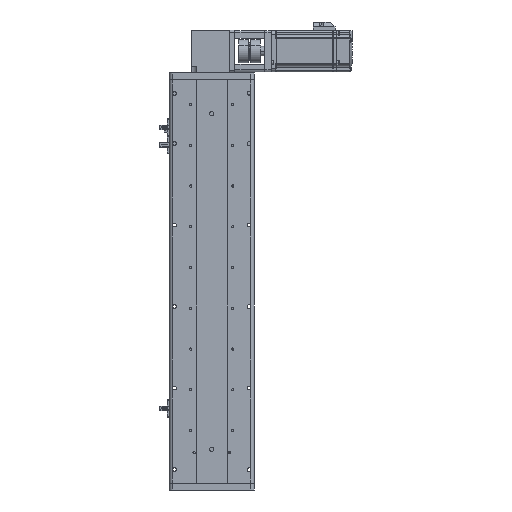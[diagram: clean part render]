
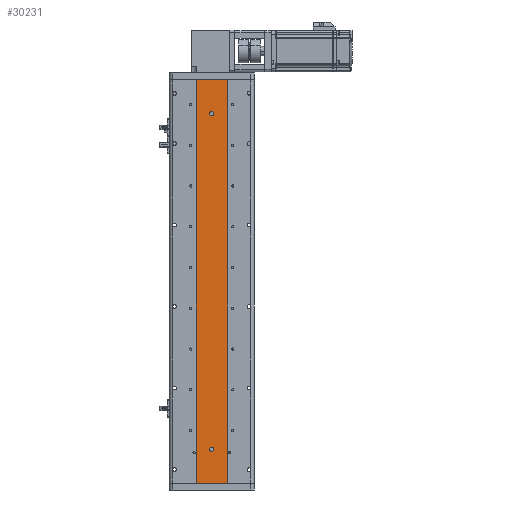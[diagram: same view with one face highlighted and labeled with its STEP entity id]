
A CAD part, front view. The second image highlights one B-rep face of the part: STEP entity #30231.
In plain terms, the highlighted planar face has unit normal (0, -1, 0).
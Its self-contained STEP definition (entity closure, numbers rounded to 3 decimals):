
#78 = CARTESIAN_POINT ( 'NONE',  ( -23., 1., -297. ) ) ;
#162 = CARTESIAN_POINT ( 'NONE',  ( 23., 1., -297. ) ) ;
#465 = EDGE_CURVE ( 'NONE', #45132, #41471, #11872, .T. ) ;
#1109 = DIRECTION ( 'NONE',  ( 0., 0., -1. ) ) ;
#1439 = DIRECTION ( 'NONE',  ( 0., 0., -1. ) ) ;
#1463 = CARTESIAN_POINT ( 'NONE',  ( 0., 1., -250. ) ) ;
#3496 = DIRECTION ( 'NONE',  ( 0., 0., -1. ) ) ;
#3683 = CIRCLE ( 'NONE', #52992, 3. ) ;
#3827 = EDGE_LOOP ( 'NONE', ( #29882, #59249 ) ) ;
#4054 = VERTEX_POINT ( 'NONE', #78 ) ;
#4213 = FACE_OUTER_BOUND ( 'NONE', #58045, .T. ) ;
#7995 = LINE ( 'NONE', #35588, #55363 ) ;
#8293 = AXIS2_PLACEMENT_3D ( 'NONE', #47663, #20074, #52233 ) ;
#10203 = CIRCLE ( 'NONE', #47657, 3. ) ;
#11188 = DIRECTION ( 'NONE',  ( 0., -1., 0. ) ) ;
#11460 = DIRECTION ( 'NONE',  ( 1., 0., 0. ) ) ;
#11872 = CIRCLE ( 'NONE', #8293, 3. ) ;
#12827 = VERTEX_POINT ( 'NONE', #26487 ) ;
#12847 = VERTEX_POINT ( 'NONE', #21913 ) ;
#14694 = CARTESIAN_POINT ( 'NONE',  ( -23., 1., 297.001 ) ) ;
#14889 = EDGE_CURVE ( 'NONE', #12827, #34340, #43730, .T. ) ;
#15589 = ORIENTED_EDGE ( 'NONE', *, *, #55574, .T. ) ;
#16768 = EDGE_CURVE ( 'NONE', #34340, #12827, #10203, .T. ) ;
#17221 = CARTESIAN_POINT ( 'NONE',  ( 23., 1., 297.001 ) ) ;
#18174 = DIRECTION ( 'NONE',  ( 0., -1., 0. ) ) ;
#18442 = AXIS2_PLACEMENT_3D ( 'NONE', #17221, #58532, #31031 ) ;
#20074 = DIRECTION ( 'NONE',  ( 0., -1., 0. ) ) ;
#21822 = EDGE_CURVE ( 'NONE', #53690, #4054, #39903, .T. ) ;
#21913 = CARTESIAN_POINT ( 'NONE',  ( 23., 1., -297. ) ) ;
#26487 = CARTESIAN_POINT ( 'NONE',  ( 0., 1., 250. ) ) ;
#27123 = ORIENTED_EDGE ( 'NONE', *, *, #21822, .T. ) ;
#27608 = VECTOR ( 'NONE', #1109, 1000. ) ;
#27728 = DIRECTION ( 'NONE',  ( 1., 0., 0. ) ) ;
#28135 = CARTESIAN_POINT ( 'NONE',  ( -23., 1., 297. ) ) ;
#28319 = CARTESIAN_POINT ( 'NONE',  ( 0., 1., -244. ) ) ;
#28851 = DIRECTION ( 'NONE',  ( 0., -1., 0. ) ) ;
#29882 = ORIENTED_EDGE ( 'NONE', *, *, #36102, .F. ) ;
#30160 = AXIS2_PLACEMENT_3D ( 'NONE', #56366, #28851, #1439 ) ;
#30231 = ADVANCED_FACE ( 'NONE', ( #37873, #50165, #4213 ), #44734, .F. ) ;
#31031 = DIRECTION ( 'NONE',  ( 0., 0., 1. ) ) ;
#34340 = VERTEX_POINT ( 'NONE', #37204 ) ;
#34754 = CARTESIAN_POINT ( 'NONE',  ( 23., 1., 297. ) ) ;
#35539 = ORIENTED_EDGE ( 'NONE', *, *, #50894, .F. ) ;
#35588 = CARTESIAN_POINT ( 'NONE',  ( 23., 1., 297.001 ) ) ;
#36102 = EDGE_CURVE ( 'NONE', #41471, #45132, #3683, .T. ) ;
#37204 = CARTESIAN_POINT ( 'NONE',  ( 0., 1., 244. ) ) ;
#37873 = FACE_BOUND ( 'NONE', #39286, .T. ) ;
#38663 = CARTESIAN_POINT ( 'NONE',  ( 0., 1., 247. ) ) ;
#38807 = VECTOR ( 'NONE', #27728, 1000. ) ;
#39286 = EDGE_LOOP ( 'NONE', ( #54344, #55900 ) ) ;
#39460 = EDGE_CURVE ( 'NONE', #53690, #56638, #51924, .T. ) ;
#39903 = LINE ( 'NONE', #14694, #27608 ) ;
#41471 = VERTEX_POINT ( 'NONE', #1463 ) ;
#43342 = DIRECTION ( 'NONE',  ( 0., 0., -1. ) ) ;
#43730 = CIRCLE ( 'NONE', #30160, 3. ) ;
#44734 = PLANE ( 'NONE',  #18442 ) ;
#45132 = VERTEX_POINT ( 'NONE', #28319 ) ;
#45703 = CARTESIAN_POINT ( 'NONE',  ( 0., 1., -247. ) ) ;
#46210 = VECTOR ( 'NONE', #11460, 1000. ) ;
#47657 = AXIS2_PLACEMENT_3D ( 'NONE', #38663, #11188, #43342 ) ;
#47663 = CARTESIAN_POINT ( 'NONE',  ( 0., 1., -247. ) ) ;
#48559 = CARTESIAN_POINT ( 'NONE',  ( 23., 1., 297. ) ) ;
#50165 = FACE_BOUND ( 'NONE', #3827, .T. ) ;
#50317 = DIRECTION ( 'NONE',  ( 0., 0., -1. ) ) ;
#50894 = EDGE_CURVE ( 'NONE', #56638, #12847, #7995, .T. ) ;
#51924 = LINE ( 'NONE', #34754, #46210 ) ;
#52233 = DIRECTION ( 'NONE',  ( 0., 0., -1. ) ) ;
#52488 = LINE ( 'NONE', #162, #38807 ) ;
#52815 = ORIENTED_EDGE ( 'NONE', *, *, #39460, .F. ) ;
#52992 = AXIS2_PLACEMENT_3D ( 'NONE', #45703, #18174, #50317 ) ;
#53690 = VERTEX_POINT ( 'NONE', #28135 ) ;
#54344 = ORIENTED_EDGE ( 'NONE', *, *, #16768, .F. ) ;
#55363 = VECTOR ( 'NONE', #3496, 1000. ) ;
#55574 = EDGE_CURVE ( 'NONE', #4054, #12847, #52488, .T. ) ;
#55900 = ORIENTED_EDGE ( 'NONE', *, *, #14889, .F. ) ;
#56366 = CARTESIAN_POINT ( 'NONE',  ( 0., 1., 247. ) ) ;
#56638 = VERTEX_POINT ( 'NONE', #48559 ) ;
#58045 = EDGE_LOOP ( 'NONE', ( #27123, #15589, #35539, #52815 ) ) ;
#58532 = DIRECTION ( 'NONE',  ( 0., 1., 0. ) ) ;
#59249 = ORIENTED_EDGE ( 'NONE', *, *, #465, .F. ) ;
